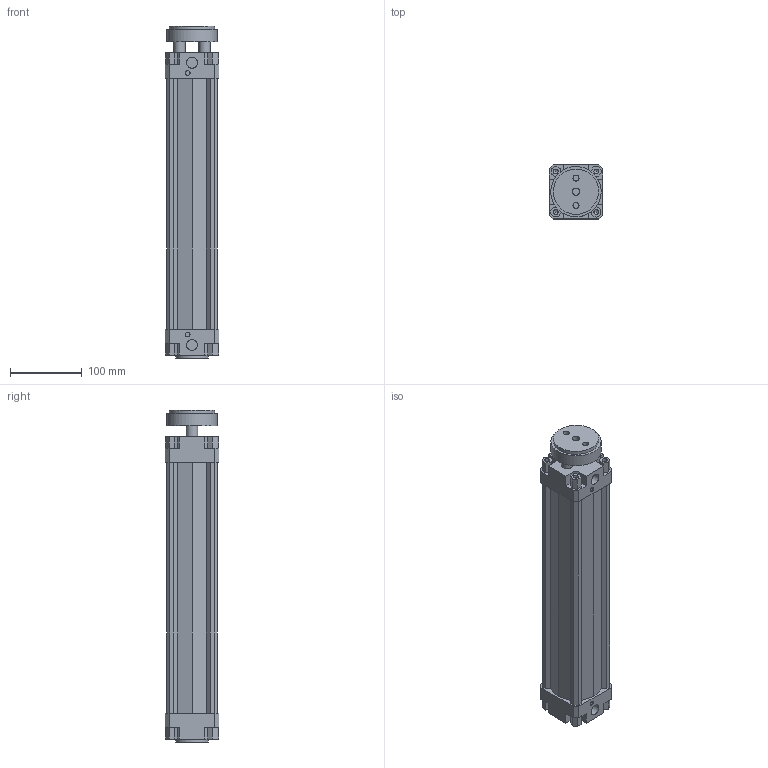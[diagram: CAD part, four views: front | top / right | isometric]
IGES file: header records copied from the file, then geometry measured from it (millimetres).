
Global section: file name: 132#_063_0300_01; native system: Autodesk Inventor 2014; preprocessor: unknown; author: A. Manieri; date: 20161006.160020; units: millimetre
Bounding box: 75 x 75 x 462 mm (x, y, z)
Volume: 1165831 mm3; surface area: 291332.6 mm2
Topology: 2 solids, 2 shells, 180 faces, 491 edges, 335 vertices
Faces by surface type: bspline 180
